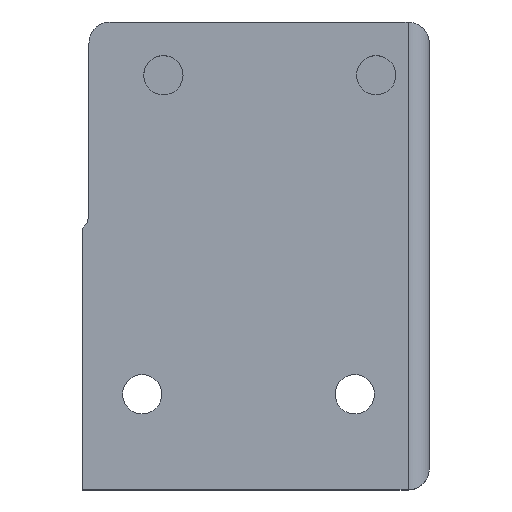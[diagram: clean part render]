
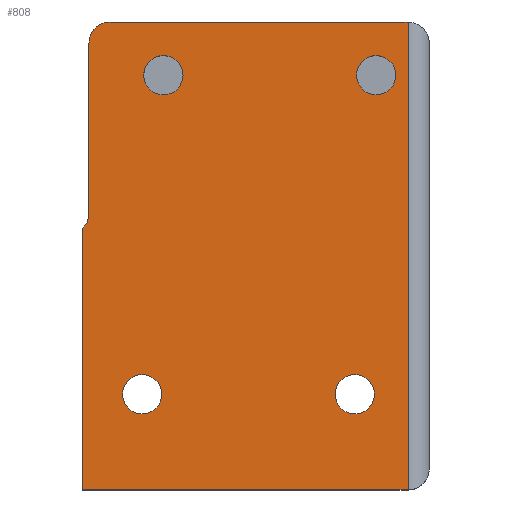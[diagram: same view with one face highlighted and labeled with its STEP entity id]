
A CAD part, top view. The second image highlights one B-rep face of the part: STEP entity #808.
In plain terms, the highlighted planar face has unit normal (0, 0, 1).
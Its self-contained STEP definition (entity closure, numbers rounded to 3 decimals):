
#6 = FACE_BOUND ( 'NONE', #1693, .T. ) ;
#28 = VERTEX_POINT ( 'NONE', #224 ) ;
#49 = CARTESIAN_POINT ( 'NONE',  ( 14., 40., 32.5 ) ) ;
#53 = EDGE_CURVE ( 'NONE', #1891, #1861, #439, .T. ) ;
#90 = EDGE_LOOP ( 'NONE', ( #2056, #525 ) ) ;
#97 = DIRECTION ( 'NONE',  ( 0., 0., 1. ) ) ;
#126 = ORIENTED_EDGE ( 'NONE', *, *, #550, .F. ) ;
#136 = DIRECTION ( 'NONE',  ( 1., 0., 0. ) ) ;
#173 = EDGE_CURVE ( 'NONE', #1861, #770, #1905, .T. ) ;
#177 = VERTEX_POINT ( 'NONE', #1302 ) ;
#181 = CIRCLE ( 'NONE', #1356, 1.85 ) ;
#182 = CARTESIAN_POINT ( 'NONE',  ( -16., 40., 32.5 ) ) ;
#190 = VECTOR ( 'NONE', #1622, 1000. ) ;
#196 = DIRECTION ( 'NONE',  ( -1., 0., 0. ) ) ;
#224 = CARTESIAN_POINT ( 'NONE',  ( 10.85, 5., 32.5 ) ) ;
#294 = EDGE_CURVE ( 'NONE', #1999, #1830, #1972, .T. ) ;
#326 = EDGE_CURVE ( 'NONE', #177, #814, #181, .T. ) ;
#333 = CARTESIAN_POINT ( 'NONE',  ( 14., -4., 32.5 ) ) ;
#346 = CIRCLE ( 'NONE', #613, 2. ) ;
#362 = CARTESIAN_POINT ( 'NONE',  ( 9., 5., 32.5 ) ) ;
#364 = AXIS2_PLACEMENT_3D ( 'NONE', #724, #97, #1355 ) ;
#375 = DIRECTION ( 'NONE',  ( 1., 0., 0. ) ) ;
#393 = DIRECTION ( 'NONE',  ( 1., 0., 0. ) ) ;
#404 = EDGE_CURVE ( 'NONE', #1891, #1339, #1004, .T. ) ;
#408 = DIRECTION ( 'NONE',  ( 1., 0., 0. ) ) ;
#413 = DIRECTION ( 'NONE',  ( 0., 0., 1. ) ) ;
#422 = AXIS2_PLACEMENT_3D ( 'NONE', #500, #854, #2000 ) ;
#424 = ORIENTED_EDGE ( 'NONE', *, *, #1138, .T. ) ;
#433 = EDGE_CURVE ( 'NONE', #1870, #2024, #1880, .T. ) ;
#439 = LINE ( 'NONE', #787, #1739 ) ;
#464 = EDGE_LOOP ( 'NONE', ( #932, #1647 ) ) ;
#499 = CARTESIAN_POINT ( 'NONE',  ( -16., 38., 32.5 ) ) ;
#500 = CARTESIAN_POINT ( 'NONE',  ( 0., 0., 32.5 ) ) ;
#515 = ORIENTED_EDGE ( 'NONE', *, *, #1437, .F. ) ;
#521 = DIRECTION ( 'NONE',  ( 0., 0., 1. ) ) ;
#525 = ORIENTED_EDGE ( 'NONE', *, *, #2037, .F. ) ;
#532 = CARTESIAN_POINT ( 'NONE',  ( -11., 5., 32.5 ) ) ;
#537 = AXIS2_PLACEMENT_3D ( 'NONE', #1557, #764, #1898 ) ;
#540 = DIRECTION ( 'NONE',  ( 1., 0., 0. ) ) ;
#550 = EDGE_CURVE ( 'NONE', #2024, #1870, #1883, .T. ) ;
#583 = ORIENTED_EDGE ( 'NONE', *, *, #53, .T. ) ;
#594 = DIRECTION ( 'NONE',  ( 0., 1., 0. ) ) ;
#613 = AXIS2_PLACEMENT_3D ( 'NONE', #1410, #935, #136 ) ;
#644 = FACE_BOUND ( 'NONE', #90, .T. ) ;
#650 = CARTESIAN_POINT ( 'NONE',  ( 0., -4., 32.5 ) ) ;
#686 = ORIENTED_EDGE ( 'NONE', *, *, #1576, .T. ) ;
#702 = CARTESIAN_POINT ( 'NONE',  ( 7.15, 5., 32.5 ) ) ;
#704 = CARTESIAN_POINT ( 'NONE',  ( -9., 35., 32.5 ) ) ;
#717 = AXIS2_PLACEMENT_3D ( 'NONE', #532, #1163, #375 ) ;
#720 = AXIS2_PLACEMENT_3D ( 'NONE', #1784, #984, #1773 ) ;
#724 = CARTESIAN_POINT ( 'NONE',  ( 9., 5., 32.5 ) ) ;
#737 = DIRECTION ( 'NONE',  ( 0., 0., 1. ) ) ;
#745 = CARTESIAN_POINT ( 'NONE',  ( -9.15, 5., 32.5 ) ) ;
#764 = DIRECTION ( 'NONE',  ( 0., 0., 1. ) ) ;
#770 = VERTEX_POINT ( 'NONE', #1745 ) ;
#787 = CARTESIAN_POINT ( 'NONE',  ( 14., 40., 32.5 ) ) ;
#789 = AXIS2_PLACEMENT_3D ( 'NONE', #1479, #1767, #540 ) ;
#792 = VERTEX_POINT ( 'NONE', #1753 ) ;
#796 = DIRECTION ( 'NONE',  ( 0., -1., 0. ) ) ;
#800 = FACE_OUTER_BOUND ( 'NONE', #1645, .T. ) ;
#808 = ADVANCED_FACE ( 'NONE', ( #800, #1434, #6, #644, #1276 ), #1917, .T. ) ;
#814 = VERTEX_POINT ( 'NONE', #1331 ) ;
#817 = CARTESIAN_POINT ( 'NONE',  ( -16., 40., 32.5 ) ) ;
#854 = DIRECTION ( 'NONE',  ( 0., 0., 1. ) ) ;
#924 = ORIENTED_EDGE ( 'NONE', *, *, #1793, .F. ) ;
#932 = ORIENTED_EDGE ( 'NONE', *, *, #1815, .F. ) ;
#935 = DIRECTION ( 'NONE',  ( 0., 0., 1. ) ) ;
#978 = CIRCLE ( 'NONE', #720, 2. ) ;
#984 = DIRECTION ( 'NONE',  ( 0., 0., -1. ) ) ;
#996 = CIRCLE ( 'NONE', #364, 1.85 ) ;
#1004 = LINE ( 'NONE', #650, #190 ) ;
#1058 = EDGE_LOOP ( 'NONE', ( #126, #1532 ) ) ;
#1081 = VECTOR ( 'NONE', #796, 1000. ) ;
#1095 = AXIS2_PLACEMENT_3D ( 'NONE', #704, #737, #408 ) ;
#1097 = VERTEX_POINT ( 'NONE', #499 ) ;
#1116 = LINE ( 'NONE', #182, #1081 ) ;
#1138 = EDGE_CURVE ( 'NONE', #792, #1696, #978, .T. ) ;
#1163 = DIRECTION ( 'NONE',  ( 0., 0., 1. ) ) ;
#1172 = EDGE_CURVE ( 'NONE', #28, #1881, #1676, .T. ) ;
#1243 = VECTOR ( 'NONE', #196, 1000. ) ;
#1276 = FACE_BOUND ( 'NONE', #1058, .T. ) ;
#1284 = DIRECTION ( 'NONE',  ( 1., 0., 0. ) ) ;
#1287 = ORIENTED_EDGE ( 'NONE', *, *, #404, .F. ) ;
#1302 = CARTESIAN_POINT ( 'NONE',  ( 9.15, 35., 32.5 ) ) ;
#1331 = CARTESIAN_POINT ( 'NONE',  ( 12.85, 35., 32.5 ) ) ;
#1339 = VERTEX_POINT ( 'NONE', #1798 ) ;
#1355 = DIRECTION ( 'NONE',  ( 1., 0., 0. ) ) ;
#1356 = AXIS2_PLACEMENT_3D ( 'NONE', #1681, #413, #393 ) ;
#1384 = CARTESIAN_POINT ( 'NONE',  ( -12.85, 5., 32.5 ) ) ;
#1390 = EDGE_CURVE ( 'NONE', #770, #1097, #346, .T. ) ;
#1410 = CARTESIAN_POINT ( 'NONE',  ( -14., 38., 32.5 ) ) ;
#1428 = CIRCLE ( 'NONE', #537, 1.85 ) ;
#1434 = FACE_BOUND ( 'NONE', #464, .T. ) ;
#1437 = EDGE_CURVE ( 'NONE', #1339, #1696, #1843, .T. ) ;
#1479 = CARTESIAN_POINT ( 'NONE',  ( -9., 35., 32.5 ) ) ;
#1520 = CARTESIAN_POINT ( 'NONE',  ( -7.15, 35., 32.5 ) ) ;
#1532 = ORIENTED_EDGE ( 'NONE', *, *, #433, .F. ) ;
#1557 = CARTESIAN_POINT ( 'NONE',  ( -11., 5., 32.5 ) ) ;
#1576 = EDGE_CURVE ( 'NONE', #1097, #792, #1116, .T. ) ;
#1580 = ORIENTED_EDGE ( 'NONE', *, *, #294, .F. ) ;
#1622 = DIRECTION ( 'NONE',  ( -1., 0., 0. ) ) ;
#1627 = CIRCLE ( 'NONE', #1797, 1.85 ) ;
#1645 = EDGE_LOOP ( 'NONE', ( #515, #1287, #583, #1755, #1683, #686, #424 ) ) ;
#1647 = ORIENTED_EDGE ( 'NONE', *, *, #326, .F. ) ;
#1676 = CIRCLE ( 'NONE', #1869, 1.85 ) ;
#1678 = DIRECTION ( 'NONE',  ( 1., 0., 0. ) ) ;
#1681 = CARTESIAN_POINT ( 'NONE',  ( 11., 35., 32.5 ) ) ;
#1683 = ORIENTED_EDGE ( 'NONE', *, *, #1390, .T. ) ;
#1693 = EDGE_LOOP ( 'NONE', ( #1580, #924 ) ) ;
#1696 = VERTEX_POINT ( 'NONE', #1979 ) ;
#1714 = CARTESIAN_POINT ( 'NONE',  ( -16.586, 0., 32.5 ) ) ;
#1739 = VECTOR ( 'NONE', #1863, 1000. ) ;
#1745 = CARTESIAN_POINT ( 'NONE',  ( -14., 40., 32.5 ) ) ;
#1753 = CARTESIAN_POINT ( 'NONE',  ( -16., 22., 32.5 ) ) ;
#1755 = ORIENTED_EDGE ( 'NONE', *, *, #173, .T. ) ;
#1765 = CARTESIAN_POINT ( 'NONE',  ( -10.85, 35., 32.5 ) ) ;
#1767 = DIRECTION ( 'NONE',  ( 0., 0., 1. ) ) ;
#1773 = DIRECTION ( 'NONE',  ( 1., 0., 0. ) ) ;
#1784 = CARTESIAN_POINT ( 'NONE',  ( -18., 22., 32.5 ) ) ;
#1793 = EDGE_CURVE ( 'NONE', #1830, #1999, #1428, .T. ) ;
#1797 = AXIS2_PLACEMENT_3D ( 'NONE', #1996, #2015, #1678 ) ;
#1798 = CARTESIAN_POINT ( 'NONE',  ( -16.586, -4., 32.5 ) ) ;
#1815 = EDGE_CURVE ( 'NONE', #814, #177, #1627, .T. ) ;
#1830 = VERTEX_POINT ( 'NONE', #1384 ) ;
#1843 = LINE ( 'NONE', #1714, #2034 ) ;
#1861 = VERTEX_POINT ( 'NONE', #49 ) ;
#1863 = DIRECTION ( 'NONE',  ( 0., 1., 0. ) ) ;
#1869 = AXIS2_PLACEMENT_3D ( 'NONE', #362, #521, #1284 ) ;
#1870 = VERTEX_POINT ( 'NONE', #1765 ) ;
#1880 = CIRCLE ( 'NONE', #789, 1.85 ) ;
#1881 = VERTEX_POINT ( 'NONE', #702 ) ;
#1883 = CIRCLE ( 'NONE', #1095, 1.85 ) ;
#1891 = VERTEX_POINT ( 'NONE', #333 ) ;
#1898 = DIRECTION ( 'NONE',  ( 1., 0., 0. ) ) ;
#1905 = LINE ( 'NONE', #817, #1243 ) ;
#1917 = PLANE ( 'NONE',  #422 ) ;
#1972 = CIRCLE ( 'NONE', #717, 1.85 ) ;
#1979 = CARTESIAN_POINT ( 'NONE',  ( -16.586, 20.586, 32.5 ) ) ;
#1996 = CARTESIAN_POINT ( 'NONE',  ( 11., 35., 32.5 ) ) ;
#1999 = VERTEX_POINT ( 'NONE', #745 ) ;
#2000 = DIRECTION ( 'NONE',  ( 1., 0., 0. ) ) ;
#2015 = DIRECTION ( 'NONE',  ( 0., 0., 1. ) ) ;
#2024 = VERTEX_POINT ( 'NONE', #1520 ) ;
#2034 = VECTOR ( 'NONE', #594, 1000. ) ;
#2037 = EDGE_CURVE ( 'NONE', #1881, #28, #996, .T. ) ;
#2056 = ORIENTED_EDGE ( 'NONE', *, *, #1172, .F. ) ;
